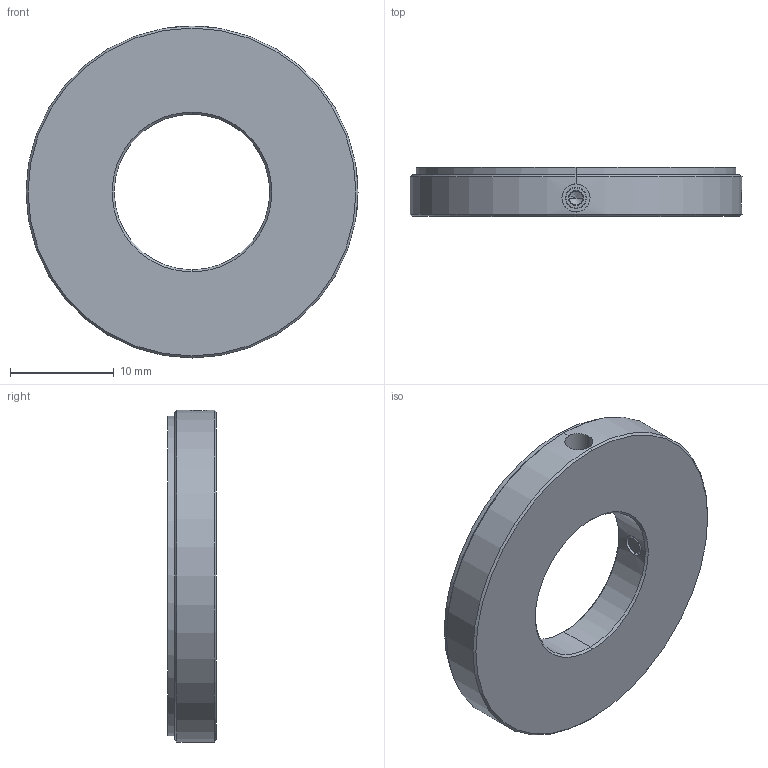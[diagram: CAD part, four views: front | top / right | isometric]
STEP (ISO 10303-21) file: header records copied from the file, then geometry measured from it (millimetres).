
FILE_DESCRIPTION (( 'STEP AP214' ), '1' );
FILE_NAME ('IRR-045-C2115-AL_rev01.STEP', '2023-11-03T16:14:29', ( '' ), ( '' ), 'SwSTEP 2.0', 'SolidWorks 2021', '' );
FILE_SCHEMA (( 'AUTOMOTIVE_DESIGN' ));
Length unit declared in the file: millimetre
Products named in the file (1): IRR-045-C2115-AL_rev01
Bounding box: 32 x 4.7 x 32 mm (x, y, z)
Volume: 2833.8 mm3; surface area: 3141 mm2
Topology: 4 solids, 4 shells, 96 faces, 206 edges, 118 vertices
Faces by surface type: plane 40, cone 32, cylinder 24
Entity records: 3837 total; most frequent: CARTESIAN_POINT 637, DIRECTION 458, ORIENTED_EDGE 404, EDGE_CURVE 202, AXIS2_PLACEMENT_3D 183, VERTEX_POINT 118, EDGE_LOOP 108, UNCERTAINTY_MEASURE_WITH_UNIT 102
